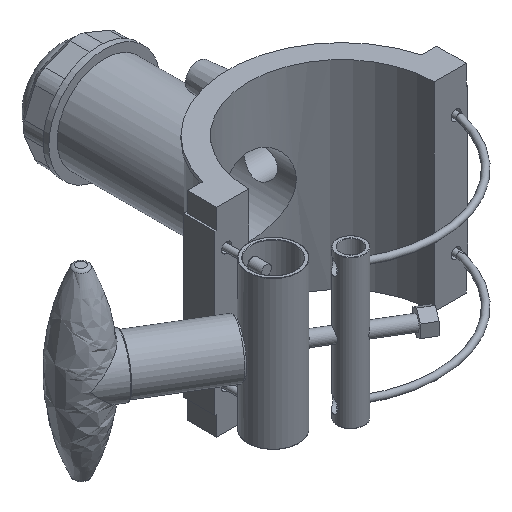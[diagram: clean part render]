
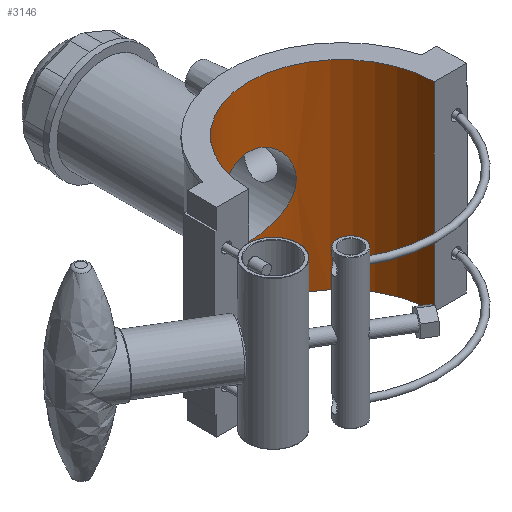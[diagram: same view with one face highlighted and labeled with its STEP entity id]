
A CAD part, isometric view. The second image highlights one B-rep face of the part: STEP entity #3146.
In plain terms, the highlighted cylindrical face has radius 55 mm (diameter 110 mm), a partial arc.
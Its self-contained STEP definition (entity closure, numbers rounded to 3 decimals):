
#59=B_SPLINE_CURVE_WITH_KNOTS('',3,(#4571,#4572,#4573,#4574,#4575,#4576,
#4577,#4578,#4579,#4580,#4581,#4582,#4583,#4584,#4585,#4586,#4587,#4588,
#4589,#4590,#4591,#4592,#4593,#4594,#4595,#4596,#4597,#4598,#4599,#4600,
#4601,#4602,#4603,#4604,#4605,#4606,#4607,#4608,#4609,#4610,#4611,#4612,
#4613,#4614,#4615,#4616,#4617,#4618,#4619,#4620),.UNSPECIFIED.,.F.,.F.,
(4,2,2,2,2,2,2,2,2,2,2,2,2,2,2,2,2,2,2,2,2,2,2,2,4),(0.,0.441,
0.883,1.324,1.765,2.206,2.647,
3.088,3.529,3.969,4.41,4.851,
5.292,5.733,6.175,6.616,7.057,
7.499,7.94,8.381,8.823,9.264,
9.704,10.145,10.586),.UNSPECIFIED.);
#60=B_SPLINE_CURVE_WITH_KNOTS('',3,(#4621,#4622,#4623,#4624,#4625,#4626,
#4627,#4628,#4629,#4630,#4631,#4632,#4633,#4634,#4635,#4636,#4637,#4638),
 .UNSPECIFIED.,.F.,.F.,(4,2,2,2,2,2,2,2,4),(10.586,11.027,
11.468,11.908,12.349,12.791,13.232,
13.673,14.115),.UNSPECIFIED.);
#176=FACE_BOUND('',#605,.T.);
#404=FACE_OUTER_BOUND('',#604,.T.);
#604=EDGE_LOOP('',(#2627,#2628,#2629,#2630));
#605=EDGE_LOOP('',(#2631,#2632));
#800=CIRCLE('',#3445,55.);
#801=CIRCLE('',#3447,55.);
#1008=LINE('',#5820,#1214);
#1013=LINE('',#5829,#1219);
#1214=VECTOR('',#4126,10.);
#1219=VECTOR('',#4133,10.);
#1303=VERTEX_POINT('',#4568);
#1304=VERTEX_POINT('',#4570);
#1466=VERTEX_POINT('',#5817);
#1467=VERTEX_POINT('',#5819);
#1469=VERTEX_POINT('',#5825);
#1470=VERTEX_POINT('',#5827);
#1625=EDGE_CURVE('',#1304,#1303,#59,.T.);
#1626=EDGE_CURVE('',#1303,#1304,#60,.T.);
#1872=EDGE_CURVE('',#1467,#1466,#1008,.T.);
#1877=EDGE_CURVE('',#1469,#1470,#1013,.T.);
#1879=EDGE_CURVE('',#1469,#1466,#800,.T.);
#1880=EDGE_CURVE('',#1467,#1470,#801,.T.);
#2627=ORIENTED_EDGE('',*,*,#1877,.T.);
#2628=ORIENTED_EDGE('',*,*,#1880,.F.);
#2629=ORIENTED_EDGE('',*,*,#1872,.T.);
#2630=ORIENTED_EDGE('',*,*,#1879,.F.);
#2631=ORIENTED_EDGE('',*,*,#1625,.T.);
#2632=ORIENTED_EDGE('',*,*,#1626,.T.);
#3012=CYLINDRICAL_SURFACE('',#3446,55.);
#3146=ADVANCED_FACE('',(#404,#176),#3012,.F.);
#3445=AXIS2_PLACEMENT_3D('',#5833,#4139,#4140);
#3446=AXIS2_PLACEMENT_3D('',#5834,#4141,#4142);
#3447=AXIS2_PLACEMENT_3D('',#5835,#4143,#4144);
#4126=DIRECTION('',(0.,0.,1.));
#4133=DIRECTION('',(0.,0.,-1.));
#4139=DIRECTION('center_axis',(0.,0.,-1.));
#4140=DIRECTION('ref_axis',(1.,0.,0.));
#4141=DIRECTION('center_axis',(0.,0.,1.));
#4142=DIRECTION('ref_axis',(1.,0.,0.));
#4143=DIRECTION('center_axis',(0.,0.,1.));
#4144=DIRECTION('ref_axis',(1.,0.,0.));
#4568=CARTESIAN_POINT('',(0.,55.,-23.1));
#4570=CARTESIAN_POINT('',(-23.1,49.914,0.));
#4571=CARTESIAN_POINT('Ctrl Pts',(-23.1,49.914,0.));
#4572=CARTESIAN_POINT('Ctrl Pts',(-23.1,49.914,1.471));
#4573=CARTESIAN_POINT('Ctrl Pts',(-22.957,49.981,2.986));
#4574=CARTESIAN_POINT('Ctrl Pts',(-22.363,50.249,5.986));
#4575=CARTESIAN_POINT('Ctrl Pts',(-21.913,50.45,7.471));
#4576=CARTESIAN_POINT('Ctrl Pts',(-20.729,50.948,10.31));
#4577=CARTESIAN_POINT('Ctrl Pts',(-19.995,51.245,11.666));
#4578=CARTESIAN_POINT('Ctrl Pts',(-18.306,51.872,14.17));
#4579=CARTESIAN_POINT('Ctrl Pts',(-17.35,52.203,15.318));
#4580=CARTESIAN_POINT('Ctrl Pts',(-15.319,52.834,17.349));
#4581=CARTESIAN_POINT('Ctrl Pts',(-14.172,53.158,18.304));
#4582=CARTESIAN_POINT('Ctrl Pts',(-11.668,53.764,19.994));
#4583=CARTESIAN_POINT('Ctrl Pts',(-10.311,54.044,20.728));
#4584=CARTESIAN_POINT('Ctrl Pts',(-7.47,54.509,21.913));
#4585=CARTESIAN_POINT('Ctrl Pts',(-5.983,54.694,22.364));
#4586=CARTESIAN_POINT('Ctrl Pts',(-2.983,54.94,22.958));
#4587=CARTESIAN_POINT('Ctrl Pts',(-1.469,55.,23.1));
#4588=CARTESIAN_POINT('Ctrl Pts',(1.469,55.,23.1));
#4589=CARTESIAN_POINT('Ctrl Pts',(2.983,54.94,22.958));
#4590=CARTESIAN_POINT('Ctrl Pts',(5.983,54.694,22.364));
#4591=CARTESIAN_POINT('Ctrl Pts',(7.47,54.509,21.913));
#4592=CARTESIAN_POINT('Ctrl Pts',(10.311,54.044,20.728));
#4593=CARTESIAN_POINT('Ctrl Pts',(11.668,53.764,19.994));
#4594=CARTESIAN_POINT('Ctrl Pts',(14.172,53.158,18.304));
#4595=CARTESIAN_POINT('Ctrl Pts',(15.319,52.834,17.349));
#4596=CARTESIAN_POINT('Ctrl Pts',(17.35,52.203,15.318));
#4597=CARTESIAN_POINT('Ctrl Pts',(18.306,51.872,14.17));
#4598=CARTESIAN_POINT('Ctrl Pts',(19.995,51.245,11.666));
#4599=CARTESIAN_POINT('Ctrl Pts',(20.729,50.948,10.31));
#4600=CARTESIAN_POINT('Ctrl Pts',(21.913,50.45,7.471));
#4601=CARTESIAN_POINT('Ctrl Pts',(22.363,50.249,5.986));
#4602=CARTESIAN_POINT('Ctrl Pts',(22.957,49.981,2.986));
#4603=CARTESIAN_POINT('Ctrl Pts',(23.1,49.914,1.471));
#4604=CARTESIAN_POINT('Ctrl Pts',(23.1,49.914,-1.471));
#4605=CARTESIAN_POINT('Ctrl Pts',(22.957,49.981,-2.986));
#4606=CARTESIAN_POINT('Ctrl Pts',(22.363,50.249,-5.986));
#4607=CARTESIAN_POINT('Ctrl Pts',(21.913,50.45,-7.471));
#4608=CARTESIAN_POINT('Ctrl Pts',(20.729,50.948,-10.31));
#4609=CARTESIAN_POINT('Ctrl Pts',(19.995,51.245,-11.666));
#4610=CARTESIAN_POINT('Ctrl Pts',(18.306,51.872,-14.17));
#4611=CARTESIAN_POINT('Ctrl Pts',(17.35,52.203,-15.318));
#4612=CARTESIAN_POINT('Ctrl Pts',(15.319,52.834,-17.349));
#4613=CARTESIAN_POINT('Ctrl Pts',(14.172,53.158,-18.304));
#4614=CARTESIAN_POINT('Ctrl Pts',(11.668,53.764,-19.994));
#4615=CARTESIAN_POINT('Ctrl Pts',(10.311,54.044,-20.728));
#4616=CARTESIAN_POINT('Ctrl Pts',(7.47,54.509,-21.913));
#4617=CARTESIAN_POINT('Ctrl Pts',(5.983,54.694,-22.364));
#4618=CARTESIAN_POINT('Ctrl Pts',(2.983,54.94,-22.958));
#4619=CARTESIAN_POINT('Ctrl Pts',(1.469,55.,-23.1));
#4620=CARTESIAN_POINT('Ctrl Pts',(0.,55.,-23.1));
#4621=CARTESIAN_POINT('Ctrl Pts',(0.,55.,-23.1));
#4622=CARTESIAN_POINT('Ctrl Pts',(-1.469,55.,-23.1));
#4623=CARTESIAN_POINT('Ctrl Pts',(-2.983,54.94,-22.958));
#4624=CARTESIAN_POINT('Ctrl Pts',(-5.983,54.694,-22.364));
#4625=CARTESIAN_POINT('Ctrl Pts',(-7.47,54.509,-21.913));
#4626=CARTESIAN_POINT('Ctrl Pts',(-10.311,54.044,-20.728));
#4627=CARTESIAN_POINT('Ctrl Pts',(-11.668,53.764,-19.994));
#4628=CARTESIAN_POINT('Ctrl Pts',(-14.172,53.158,-18.304));
#4629=CARTESIAN_POINT('Ctrl Pts',(-15.319,52.834,-17.349));
#4630=CARTESIAN_POINT('Ctrl Pts',(-17.35,52.203,-15.318));
#4631=CARTESIAN_POINT('Ctrl Pts',(-18.306,51.872,-14.17));
#4632=CARTESIAN_POINT('Ctrl Pts',(-19.995,51.245,-11.666));
#4633=CARTESIAN_POINT('Ctrl Pts',(-20.729,50.948,-10.31));
#4634=CARTESIAN_POINT('Ctrl Pts',(-21.913,50.45,-7.471));
#4635=CARTESIAN_POINT('Ctrl Pts',(-22.363,50.249,-5.986));
#4636=CARTESIAN_POINT('Ctrl Pts',(-22.957,49.981,-2.986));
#4637=CARTESIAN_POINT('Ctrl Pts',(-23.1,49.914,-1.471));
#4638=CARTESIAN_POINT('Ctrl Pts',(-23.1,49.914,0.));
#5817=CARTESIAN_POINT('',(55.,0.05,59.));
#5819=CARTESIAN_POINT('',(55.,0.05,-59.));
#5820=CARTESIAN_POINT('',(55.,0.05,0.));
#5825=CARTESIAN_POINT('',(-55.,0.05,59.));
#5827=CARTESIAN_POINT('',(-55.,0.05,-59.));
#5829=CARTESIAN_POINT('',(-55.,0.05,0.));
#5833=CARTESIAN_POINT('Origin',(0.,0.,59.));
#5834=CARTESIAN_POINT('Origin',(0.,0.,0.));
#5835=CARTESIAN_POINT('Origin',(0.,0.,-59.));
